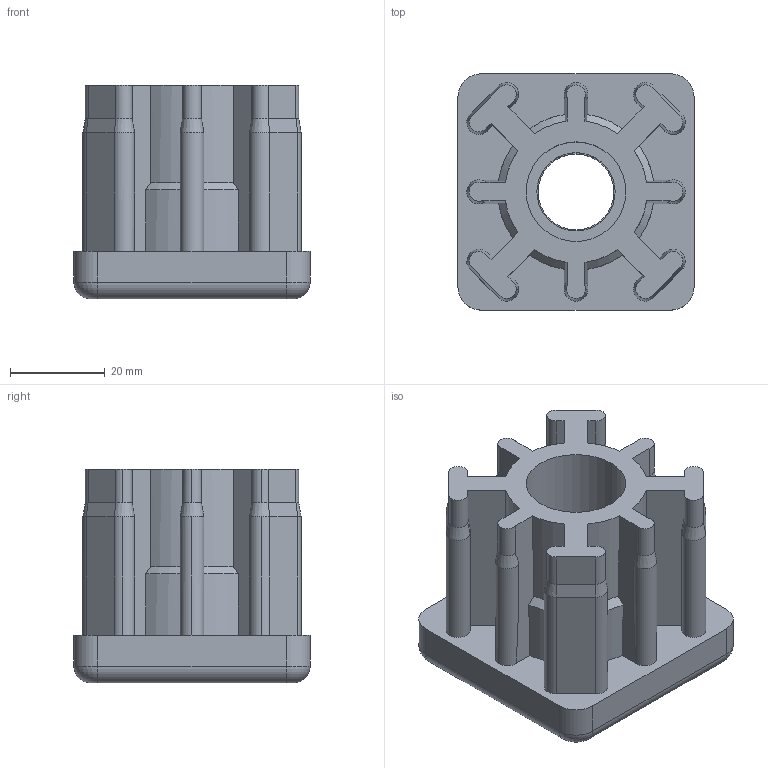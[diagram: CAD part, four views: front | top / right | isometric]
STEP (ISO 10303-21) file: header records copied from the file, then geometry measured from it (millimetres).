
FILE_DESCRIPTION (( 'STEP AP214' ), '1' );
FILE_NAME ('42006850316.STEP', '2020-02-26T11:12:14', ( '' ), ( '' ), 'SwSTEP 2.0', 'SolidWorks 2018', '' );
FILE_SCHEMA (( 'AUTOMOTIVE_DESIGN' ));
Length unit declared in the file: millimetre
Products named in the file (1): 42006850316
Bounding box: 49.8 x 49.8 x 45 mm (x, y, z)
Volume: 56096.4 mm3; surface area: 20770.5 mm2
Topology: 2 solids, 2 shells, 183 faces, 472 edges, 296 vertices
Faces by surface type: cylinder 76, plane 71, cone 32, torus 4
Entity records: 5713 total; most frequent: CARTESIAN_POINT 1256, ORIENTED_EDGE 944, DIRECTION 932, EDGE_CURVE 472, AXIS2_PLACEMENT_3D 348, VERTEX_POINT 296, VECTOR 236, LINE 236
